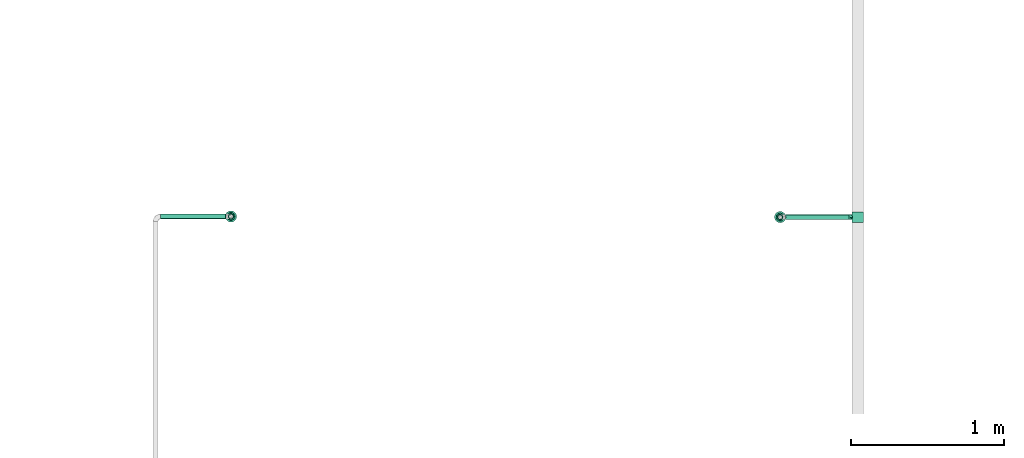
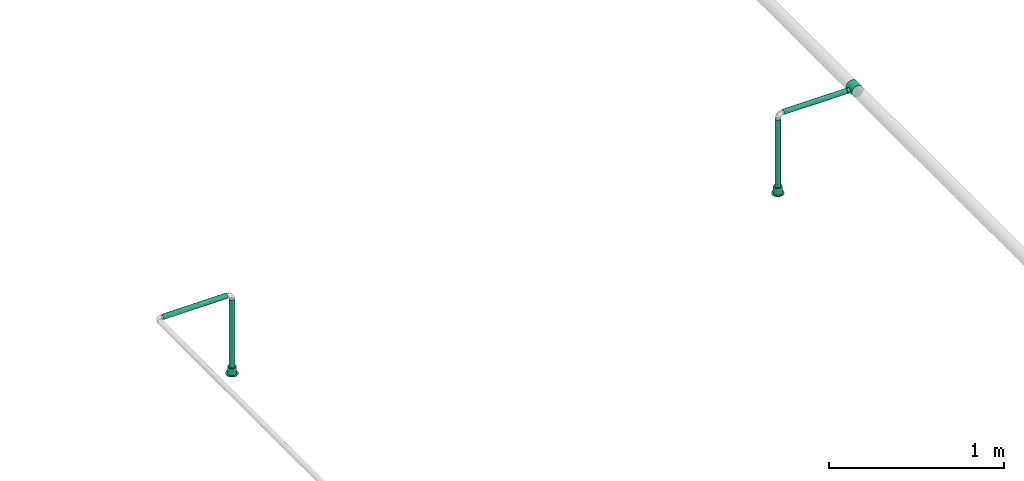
# One storey, part 28 of 95: 4 flow segments, 2 flow terminals, 1 flow fitting.
"""IFC2X3 building model written with IfcOpenShell, lengths in millimetres."""

from ifc_helpers import new_model, entity, si_unit, converted_unit, derived_unit, direction, frame, origin_with_axes, origin_2d_with_axis, place, context, subcontext, project, spatial, hollow_circle, extrude, open_shell, surface_model, source, transform, mapped, type_object, element, save


model = new_model("IFC2X3")

# Units and contexts
model_context = context("Model", 3, precision=0.01, world=frame((0.0, 4.29681676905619e-09, 0.0)), true_north=direction((4.01073788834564e-13, 1.0)))
plan_context = context("Plan", 3, precision=0.01, world=frame((0.0, 4.29681676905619e-09, 0.0)), true_north=direction((4.01073788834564e-13, 1.0)))
body_context = subcontext(model_context, "Body", "Model", "MODEL_VIEW")
ifc_project = project(units=[converted_unit("PLANEANGLEUNIT", "DEGREE", entity("IfcPositiveLengthMeasure", 0.0174532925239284), si_unit("PLANEANGLEUNIT", "RADIAN"), dimensions=[0, 0, 0, 0, 0, 0, 0]), si_unit("AREAUNIT", "SQUARE_METRE"), si_unit("LENGTHUNIT", "METRE", prefix="MILLI"), si_unit("MASSUNIT", "GRAM", prefix="KILO"), si_unit("POWERUNIT", "WATT"), si_unit("PRESSUREUNIT", "PASCAL"), si_unit("FORCEUNIT", "NEWTON", prefix="KILO"), si_unit("ELECTRICVOLTAGEUNIT", "VOLT"), si_unit("ELECTRICCURRENTUNIT", "AMPERE"), si_unit("THERMODYNAMICTEMPERATUREUNIT", "DEGREE_CELSIUS"), si_unit("TIMEUNIT", "SECOND"), si_unit("VOLUMEUNIT", "CUBIC_METRE"), derived_unit("LINEARVELOCITYUNIT", [(si_unit("LENGTHUNIT", "METRE"), 1), (si_unit("TIMEUNIT", "SECOND"), -1)]), derived_unit("VOLUMETRICFLOWRATEUNIT", [(si_unit("VOLUMEUNIT", "CUBIC_METRE"), 1), (si_unit("TIMEUNIT", "SECOND"), -1)]), derived_unit("THERMALTRANSMITTANCEUNIT", [(si_unit("POWERUNIT", "WATT"), 1), (si_unit("THERMODYNAMICTEMPERATUREUNIT", "KELVIN"), -1), (si_unit("AREAUNIT", "SQUARE_METRE"), -1)]), derived_unit("SOUNDPRESSUREUNIT", [(si_unit("PRESSUREUNIT", "PASCAL"), 1)])], contexts=[model_context, plan_context])

# Site, building, storey
site_placement = place(None, frame((0.0, -4.29681676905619e-09, 0.0), z_axis=(0.0, 0.0, 1.0), x_axis=(1.0, 0.0, 0.0)))
site = spatial("IfcSite", under=ifc_project, at=site_placement, CompositionType="ELEMENT")
building_placement = place(site_placement, frame((0.0, 4.29681676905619e-09, 0.0), z_axis=(0.0, 0.0, 1.0), x_axis=(1.0, 0.0, 0.0)))
building = spatial("IfcBuilding", under=site, at=building_placement, Name="mc-building", CompositionType="ELEMENT")
storey_placement = place(building_placement, frame((0.0, 0.0, 210900.0), z_axis=(0.0, 0.0, 1.0), x_axis=(1.0, 0.0, 0.0)))
storey = spatial("IfcBuildingStorey", under=building, at=storey_placement, Name="Nivå F", CompositionType="ELEMENT", Elevation=210900.0)

# Flow fitting
pipe_fitting_type = type_object("IfcPipeFittingType", Name="magi_pipe_fe_tee_centric_90_NOR", PredefinedType="JUNCTION")
shared_shape_1 = source(origin_with_axes(), body_context, "Body", "SurfaceModel", [
    surface_model("IfcShellBasedSurfaceModel", [(-33.8, 9.86101, -36.80177), (-33.8, 0.0, -38.1), (-33.8, 36.80177, -9.86101), (-33.8, 19.05, -32.99557), (-33.8, 32.99557, -19.05), (-33.8, 26.94077, -26.94077), (-33.8, -38.1, 0.0), (-33.8, -19.05, -32.99557), (-33.8, -26.94077, -26.94077), (-33.8, -9.86101, -36.80177), (-33.8, -32.99557, -19.05), (-33.8, -36.80177, -9.86101), (-33.8, 38.1, 0.0), (-33.8, 32.99557, 19.05), (-33.8, 36.80177, 9.86101), (-33.8, -36.80177, 9.86101), (-33.8, 19.05, 32.99557), (-33.8, 26.94077, 26.94077), (-33.8, 9.86101, 36.80177), (-33.8, 0.0, 38.1), (-33.8, -26.94077, 26.94077), (-33.8, -32.99557, 19.05), (-33.8, -9.86101, 36.80177), (-33.8, -19.05, 32.99557), (33.8, 0.0, -38.1), (33.8, 9.86101, -36.80177), (33.8, 19.05, -32.99557), (33.8, 26.94077, -26.94077), (33.8, 32.99557, -19.05), (33.8, 36.80177, -9.86101), (33.8, -38.1, 0.0), (33.8, -9.86101, -36.80177), (33.8, -26.94077, -26.94077), (33.8, -19.05, -32.99557), (33.8, -32.99557, -19.05), (33.8, -36.80177, -9.86101), (33.8, 36.80177, 9.86101), (33.8, 32.99557, 19.05), (33.8, 19.05, 32.99557), (33.8, 0.0, 38.1), (33.8, 26.94077, 26.94077), (33.8, 9.86101, 36.80177), (33.8, -26.94077, 26.94077), (33.8, -32.99557, 19.05), (33.8, -36.80177, 9.86101), (33.8, -19.05, 32.99557), (33.8, -9.86101, 36.80177), (33.8, 38.1, 0.0), (33.8, -37.45089, 4.9305), (15.86072, -37.65053, 5.83504), (16.9, -38.1, 0.0), (12.92726, -36.51183, 10.88559), (2.96752, -34.27545, 16.63742), (33.8, -34.89867, 14.4555), (8.48894, -35.18611, 14.61328), (-8.4904, -35.18646, 14.61243), (-33.8, -34.89867, 14.4555), (-15.8612, -37.65073, 5.83372), (-33.8, -37.45089, 4.9305), (-16.9, -38.1, 0.0), (-12.9317, -36.51341, 10.88031), (-2.97221, -34.27585, 16.63658), (-33.8, -37.45089, -4.9305), (-15.8612, -37.65073, -5.83372), (15.86072, -37.65053, -5.83504), (33.8, -37.45089, -4.9305), (-12.9317, -36.51341, -10.88031), (-33.8, -34.89867, -14.4555), (-8.4904, -35.18646, -14.61243), (2.96752, -34.27545, -16.63742), (8.48894, -35.18611, -14.61328), (33.8, -34.89867, -14.4555), (12.92726, -36.51183, -10.88559), (-2.97221, -34.27585, -16.63658), (4.37404, -57.15, -16.32415), (-16.9, -57.15, 0.0), (0.0, -57.15, -16.9), (14.63583, -57.15, -8.45), (8.45, -57.15, -14.63583), (16.32415, -57.15, -4.37404), (11.9501, -57.15, -11.9501), (-11.9501, -57.15, -11.9501), (-8.45, -57.15, -14.63583), (-4.37404, -57.15, -16.32415), (-14.63583, -57.15, -8.45), (-16.32415, -57.15, -4.37404), (16.9, -57.15, 0.0), (8.45, -57.15, 14.63583), (16.32415, -57.15, 4.37404), (14.63583, -57.15, 8.45), (-8.45, -57.15, 14.63583), (11.9501, -57.15, 11.9501), (4.37404, -57.15, 16.32415), (-16.32415, -57.15, 4.37404), (-11.9501, -57.15, 11.9501), (-14.63583, -57.15, 8.45), (0.0, -57.15, 16.9), (-4.37404, -57.15, 16.32415), (-16.3806, -37.87537, 2.91686), (-5.7313, -34.73116, 15.62451), (-0.00235, -34.27565, 16.637), (5.72823, -34.73078, 15.62535), (16.38036, -37.87526, 2.91752), (16.38036, -37.87526, -2.91752), (5.72823, -34.73078, -15.62535), (-0.00235, -34.27565, -16.637), (-5.7313, -34.73116, -15.62451), (-16.3806, -37.87537, -2.91686)], [open_shell([[[0, 1, 2]], [[3, 0, 2]], [[2, 4, 5]], [[3, 2, 5]], [[6, 2, 1]], [[7, 8, 9]], [[8, 1, 9]], [[10, 11, 8]], [[6, 8, 11]], [[8, 6, 1]], [[6, 12, 2]], [[13, 14, 12]], [[15, 13, 6]], [[16, 13, 15]], [[17, 13, 16]], [[18, 16, 19]], [[20, 19, 21]], [[16, 15, 21]], [[22, 19, 23]], [[20, 23, 19]], [[21, 19, 16]], [[12, 6, 13]], [[24, 25, 26]], [[24, 26, 27]], [[27, 28, 29]], [[24, 27, 30]], [[30, 27, 29]], [[31, 32, 33]], [[31, 24, 32]], [[34, 30, 35]], [[30, 34, 32]], [[24, 30, 32]], [[29, 36, 30]], [[36, 37, 30]], [[30, 37, 38]], [[38, 39, 30]], [[38, 37, 40]], [[39, 38, 41]], [[30, 42, 43]], [[44, 30, 43]], [[45, 39, 46]], [[45, 42, 30]], [[30, 39, 45]], [[36, 29, 47]], [[48, 44, 49]], [[50, 30, 48]], [[44, 51, 49]], [[43, 42, 52]], [[50, 48, 49]], [[44, 53, 51]], [[52, 54, 43]], [[42, 20, 52]], [[54, 53, 43]], [[55, 21, 56]], [[57, 58, 59]], [[6, 59, 58]], [[57, 60, 15]], [[55, 61, 21]], [[51, 53, 54]], [[15, 60, 56]], [[21, 61, 20]], [[56, 60, 55]], [[61, 52, 20]], [[57, 15, 58]], [[42, 23, 20]], [[19, 46, 39]], [[22, 45, 46]], [[18, 39, 41]], [[37, 36, 14]], [[17, 38, 40]], [[13, 40, 37]], [[41, 38, 16]], [[12, 36, 47]], [[23, 45, 22]], [[22, 46, 19]], [[18, 19, 39]], [[41, 16, 18]], [[16, 38, 17]], [[13, 17, 40]], [[14, 13, 37]], [[36, 12, 14]], [[45, 23, 42]], [[12, 47, 29]], [[29, 28, 2]], [[59, 62, 63]], [[27, 4, 28]], [[9, 24, 31]], [[0, 26, 25]], [[64, 35, 65]], [[24, 1, 25]], [[31, 33, 7]], [[27, 26, 5]], [[66, 67, 68]], [[4, 2, 28]], [[12, 29, 2]], [[27, 5, 4]], [[3, 26, 0]], [[26, 3, 5]], [[0, 25, 1]], [[9, 1, 24]], [[31, 7, 9]], [[33, 8, 7]], [[32, 34, 69]], [[70, 34, 71]], [[70, 69, 34]], [[35, 72, 71]], [[32, 69, 8]], [[30, 50, 65]], [[64, 72, 35]], [[64, 65, 50]], [[72, 70, 71]], [[73, 68, 10]], [[10, 8, 73]], [[68, 67, 10]], [[73, 8, 69]], [[66, 63, 11]], [[63, 62, 11]], [[62, 59, 6]], [[11, 67, 66]], [[32, 8, 33]], [[74, 75, 76]], [[77, 74, 78]], [[77, 79, 74]], [[77, 78, 80]], [[75, 74, 79]], [[76, 81, 82]], [[82, 83, 76]], [[84, 75, 85]], [[81, 76, 84]], [[75, 84, 76]], [[79, 86, 75]], [[87, 86, 88]], [[87, 88, 89]], [[90, 75, 87]], [[87, 89, 91]], [[90, 87, 92]], [[93, 94, 95]], [[94, 93, 90]], [[90, 96, 97]], [[93, 75, 90]], [[92, 96, 90]], [[87, 75, 86]], [[93, 98, 75]], [[60, 95, 94]], [[93, 95, 57]], [[94, 90, 55]], [[98, 59, 75]], [[57, 95, 60]], [[97, 61, 99]], [[55, 60, 94]], [[96, 52, 100]], [[87, 101, 92]], [[99, 90, 97]], [[99, 55, 90]], [[93, 57, 98]], [[92, 52, 96]], [[49, 89, 88]], [[102, 86, 50]], [[102, 49, 88]], [[91, 89, 51]], [[96, 61, 97]], [[101, 52, 92]], [[87, 54, 101]], [[87, 91, 54]], [[54, 91, 51]], [[51, 89, 49]], [[86, 102, 88]], [[100, 61, 96]], [[79, 103, 86]], [[72, 77, 80]], [[79, 77, 64]], [[80, 78, 70]], [[103, 50, 86]], [[64, 77, 72]], [[74, 69, 104]], [[70, 72, 80]], [[76, 73, 105]], [[82, 106, 83]], [[107, 75, 59]], [[104, 78, 74]], [[104, 70, 78]], [[68, 82, 81]], [[79, 64, 103]], [[63, 84, 85]], [[107, 63, 85]], [[84, 66, 81]], [[76, 69, 74]], [[83, 106, 73]], [[73, 76, 83]], [[68, 106, 82]], [[68, 81, 66]], [[66, 84, 63]], [[75, 107, 85]], [[105, 69, 76]]])]),
])
flow_fitting_placement = place(storey_placement, frame((534602.7875, 455598.02191, 4310.0), z_axis=(0.0, 0.0, -1.0), x_axis=(0.0, 1.0, 0.0)))
element("IfcFlowFitting", 1, at=flow_fitting_placement, inside=storey, type_object=pipe_fitting_type, Name="magi_pipe_fe_tee_centric_90_NOR", context=body_context, shape_type="MappedRepresentation", body=[
    mapped(shared_shape_1, transform((0.0, 0.0, 0.0), scale=1.0)),
])

# Flow segments
pipe_segment_type = type_object("IfcPipeSegmentType", Name="Stålrør normaltykke", PredefinedType="RIGIDSEGMENT")
shared_shape_2 = source(origin_with_axes(), body_context, "Body", "SweptSolid", [
    extrude(hollow_circle(Radius=16.9, WallThickness=2.0, at=origin_2d_with_axis()), frame((0.0, 0.0, 0.0), z_axis=(1.0, 0.0, 0.0), x_axis=(0.0, 1.0, 0.0)), (0.0, 0.0, 1.0), 427.2),
])
flow_segment_1_placement = place(storey_placement, frame((530464.44193, 455602.4924, 4310.0), z_axis=(0.0, 0.0, 1.0), x_axis=(-1.0, 0.0, 0.0)))
element("IfcFlowSegment", 2, at=flow_segment_1_placement, inside=storey, type_object=pipe_segment_type, Name="Stålrør normaltykke", context=body_context, shape_type="MappedRepresentation", body=[
    mapped(shared_shape_2, transform((0.0, 0.0, 0.0), scale=1.0)),
])
shared_shape_3 = source(origin_with_axes(), body_context, "Body", "SweptSolid", [
    extrude(hollow_circle(Radius=16.9, WallThickness=2.0, at=origin_2d_with_axis()), frame((0.0, 0.0, 0.0), z_axis=(1.0, 0.0, 0.0), x_axis=(0.0, 1.0, 0.0)), (0.0, 0.0, 1.0), 416.2),
])
flow_segment_2_placement = place(storey_placement, frame((534545.6375, 455598.02191, 4310.0), z_axis=(0.0, 0.0, 1.0), x_axis=(-1.0, 0.0, 0.0)))
element("IfcFlowSegment", 3, at=flow_segment_2_placement, inside=storey, type_object=pipe_segment_type, Name="Stålrør normaltykke", context=body_context, shape_type="MappedRepresentation", body=[
    mapped(shared_shape_3, transform((0.0, 0.0, 0.0), scale=1.0)),
])
shared_shape_4 = source(origin_with_axes(), body_context, "Body", "SweptSolid", [
    extrude(hollow_circle(Radius=16.9, WallThickness=2.0, at=origin_2d_with_axis()), frame((0.0, 0.0, 0.0), z_axis=(1.0, 0.0, 0.0), x_axis=(0.0, 1.0, 0.0)), (0.0, 0.0, 1.0), 506.9),
])
for number, where, z_axis, x_axis in (
    (4, (534095.66035, 455598.02191, 4276.20000000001), (0.0, -1.0, 0.0), (0.0, 0.0, -1.0)),
    (5, (530498.24193, 455602.4924, 4276.20000000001), (1.0, 0.0, 0.0), (0.0, 0.0, -1.0)),
):
    element("IfcFlowSegment", number, at=place(storey_placement, frame(where, z_axis=z_axis, x_axis=x_axis)), inside=storey, type_object=pipe_segment_type, Name="Stålrør normaltykke", context=body_context, shape_type="MappedRepresentation", body=[
        mapped(shared_shape_4, transform((0.0, 0.0, 0.0), scale=1.0)),
    ])

# Flow terminals
fire_suppression_terminal_type = type_object("IfcFireSuppressionTerminalType", Name="68DGR-STD-SKJULT I HIMLING", PredefinedType="NOTDEFINED")
shared_shape_5 = source(origin_with_axes(), body_context, "Body", "SurfaceModel", [
    surface_model("IfcShellBasedSurfaceModel", [(-26.0, 0.0, -46.0), (-25.11407, -6.72929, -46.0), (-25.11407, -6.72929, 0.0), (6.72929, -25.11407, 0.0), (6.72929, -25.11407, -46.0), (13.0, -22.51666, -46.0), (22.51666, -13.0, -46.0), (22.51666, -13.0, 0.0), (18.38478, -18.38478, 0.0), (25.11407, -6.72929, 0.0), (25.11407, -6.72929, -46.0), (26.0, 0.0, -46.0), (26.0, 0.0, 0.0), (25.11407, 6.72929, -46.0), (22.51666, 13.0, 0.0), (25.11407, 6.72929, 0.0), (13.0, 22.51666, -46.0), (6.72929, 25.11407, -46.0), (6.72929, 25.11407, 0.0), (18.38478, 18.38478, 0.0), (22.51666, 13.0, -46.0), (-25.11407, 6.72929, 0.0), (-25.11407, 6.72929, -46.0), (-26.16295, -26.16295, 5.0), (35.73926, -9.57631, 5.0), (37.0, 0.0, 5.0), (13.0, 22.51666, 0.0), (-26.0, 0.0, 0.0), (-13.0, 22.51666, 0.0), (-6.72929, 25.11407, 0.0), (0.0, 26.0, 0.0), (-22.51666, 13.0, 0.0), (-18.38478, 18.38478, 0.0), (13.0, -22.51666, 0.0), (0.0, -26.0, 0.0), (-22.51666, -13.0, 0.0), (-18.38478, -18.38478, 0.0), (-13.0, -22.51666, 0.0), (-6.72929, -25.11407, 0.0), (0.0, -26.0, -46.0), (18.38478, -18.38478, -46.0), (-18.38478, -18.38478, -46.0), (-13.0, -22.51666, -46.0), (-6.72929, -25.11407, -46.0), (-22.51666, -13.0, -46.0), (18.38478, 18.38478, -46.0), (-22.51666, 13.0, -46.0), (-18.38478, 18.38478, -46.0), (-13.0, 22.51666, -46.0), (-6.72929, 25.11407, -46.0), (0.0, 26.0, -46.0), (18.5, 32.04294, 5.0), (9.57631, 35.73926, 5.0), (35.73926, 9.57631, 5.0), (26.16295, 26.16295, 5.0), (32.04294, 18.5, 5.0), (-35.73926, -9.57631, 5.0), (-18.5, 32.04294, 5.0), (-9.57631, 35.73926, 5.0), (0.0, 37.0, 5.0), (-32.04294, 18.5, 5.0), (-35.73926, 9.57631, 5.0), (-26.16295, 26.16295, 5.0), (-37.0, 0.0, 5.0), (32.04294, -18.5, 5.0), (0.0, -37.0, 5.0), (26.16295, -26.16295, 5.0), (18.5, -32.04294, 5.0), (9.57631, -35.73926, 5.0), (-9.57631, -35.73926, 5.0), (-32.04294, -18.5, 5.0), (-18.5, -32.04294, 5.0), (18.5, -32.04294, 0.0), (9.57631, -35.73926, 0.0), (0.0, -37.0, 0.0), (32.04294, -18.5, 0.0), (-26.16295, -26.16295, 0.0), (26.16295, -26.16295, 0.0), (-35.73926, 9.57631, 0.0), (-18.5, -32.04294, 0.0), (-9.57631, -35.73926, 0.0), (-32.04294, -18.5, 0.0), (-35.73926, -9.57631, 0.0), (-37.0, 0.0, 0.0), (35.73926, -9.57631, 0.0), (35.73926, 9.57631, 0.0), (32.04294, 18.5, 0.0), (18.5, 32.04294, 0.0), (9.57631, 35.73926, 0.0), (26.16295, 26.16295, 0.0), (-32.04294, 18.5, 0.0), (-26.16295, 26.16295, 0.0), (-9.57631, 35.73926, 0.0), (0.0, 37.0, 0.0), (-18.5, 32.04294, 0.0), (37.0, 0.0, 0.0)], [open_shell([[[0, 1, 2]], [[3, 4, 5]], [[6, 7, 8]], [[9, 7, 10]], [[11, 12, 9]], [[13, 14, 15]], [[15, 12, 11]], [[16, 17, 18]], [[19, 14, 20]], [[21, 22, 0]], [[23, 24, 25]], [[19, 26, 18]], [[19, 18, 21]], [[27, 15, 19]], [[14, 19, 15]], [[19, 21, 27]], [[28, 21, 29]], [[18, 30, 29]], [[31, 21, 32]], [[28, 32, 21]], [[29, 21, 18]], [[12, 15, 27]], [[8, 7, 9]], [[33, 8, 9]], [[34, 3, 33]], [[9, 34, 33]], [[27, 34, 9]], [[2, 35, 27]], [[36, 27, 35]], [[37, 38, 36]], [[34, 27, 36]], [[36, 38, 34]], [[12, 27, 9]], [[5, 4, 39]], [[5, 39, 22]], [[10, 6, 40]], [[5, 10, 40]], [[39, 41, 22]], [[42, 41, 43]], [[41, 39, 43]], [[1, 0, 44]], [[44, 0, 22]], [[22, 41, 44]], [[10, 5, 22]], [[45, 13, 10]], [[20, 13, 45]], [[17, 16, 45]], [[10, 22, 45]], [[45, 22, 17]], [[46, 47, 22]], [[48, 22, 47]], [[48, 49, 22]], [[49, 17, 22]], [[49, 50, 17]], [[11, 10, 13]], [[46, 22, 21]], [[46, 31, 47]], [[49, 48, 28]], [[32, 48, 47]], [[50, 49, 29]], [[21, 0, 27]], [[21, 31, 46]], [[31, 32, 47]], [[48, 32, 28]], [[28, 29, 49]], [[29, 30, 50]], [[16, 26, 45]], [[13, 20, 14]], [[19, 20, 45]], [[11, 13, 15]], [[30, 18, 17]], [[18, 26, 16]], [[26, 19, 45]], [[50, 30, 17]], [[11, 9, 10]], [[10, 7, 6]], [[3, 39, 4]], [[6, 8, 40]], [[3, 5, 33]], [[8, 33, 5]], [[5, 40, 8]], [[3, 34, 39]], [[42, 43, 38]], [[42, 37, 41]], [[1, 44, 35]], [[36, 44, 41]], [[34, 38, 43]], [[38, 37, 42]], [[37, 36, 41]], [[36, 35, 44]], [[1, 35, 2]], [[2, 27, 0]], [[39, 34, 43]], [[51, 52, 53]], [[54, 51, 55]], [[56, 52, 57]], [[55, 51, 53]], [[52, 56, 53]], [[58, 57, 59]], [[57, 52, 59]], [[60, 61, 62]], [[57, 62, 63]], [[62, 61, 63]], [[53, 23, 25]], [[64, 24, 65]], [[66, 64, 67]], [[65, 68, 67]], [[64, 65, 67]], [[69, 65, 24]], [[70, 23, 56]], [[56, 57, 63]], [[71, 69, 23]], [[23, 53, 56]], [[24, 23, 69]], [[72, 73, 74]], [[75, 72, 74]], [[76, 75, 74]], [[77, 72, 75]], [[75, 76, 78]], [[79, 76, 80]], [[76, 74, 80]], [[81, 82, 76]], [[82, 78, 76]], [[83, 78, 82]], [[75, 78, 84]], [[85, 84, 78]], [[86, 85, 87]], [[85, 88, 87]], [[89, 86, 87]], [[88, 85, 78]], [[90, 91, 78]], [[91, 88, 78]], [[92, 93, 94]], [[88, 91, 94]], [[88, 94, 93]], [[95, 84, 85]], [[83, 61, 78]], [[78, 60, 90]], [[94, 91, 57]], [[62, 91, 90]], [[92, 94, 58]], [[61, 60, 78]], [[83, 63, 61]], [[94, 57, 58]], [[57, 91, 62]], [[90, 60, 62]], [[92, 58, 59]], [[59, 93, 92]], [[93, 52, 88]], [[88, 51, 87]], [[86, 89, 55]], [[54, 89, 87]], [[85, 86, 53]], [[51, 54, 87]], [[88, 52, 51]], [[85, 53, 25]], [[53, 86, 55]], [[89, 54, 55]], [[85, 25, 95]], [[59, 52, 93]], [[95, 24, 84]], [[84, 64, 75]], [[72, 77, 67]], [[66, 77, 75]], [[73, 72, 68]], [[24, 64, 84]], [[95, 25, 24]], [[72, 67, 68]], [[67, 77, 66]], [[75, 64, 66]], [[73, 68, 65]], [[65, 74, 73]], [[74, 69, 80]], [[80, 71, 79]], [[81, 76, 70]], [[23, 76, 79]], [[82, 81, 56]], [[71, 23, 79]], [[80, 69, 71]], [[82, 56, 63]], [[56, 81, 70]], [[76, 23, 70]], [[82, 63, 83]], [[65, 69, 74]]])]),
])
flow_terminal_1_placement = place(storey_placement, frame((530498.24193, 455602.4924, 3759.89999999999), z_axis=(0.0, 0.0, -1.0), x_axis=(1.0, 0.0, 0.0)))
element("IfcFlowTerminal", 6, at=flow_terminal_1_placement, inside=storey, type_object=fire_suppression_terminal_type, Name="68DGR-STD-SKJULT I HIMLING", context=body_context, shape_type="MappedRepresentation", body=[
    mapped(shared_shape_5, transform((0.0, 0.0, 0.0), scale=1.0)),
])
shared_shape_6 = source(origin_with_axes(), body_context, "Body", "SurfaceModel", [
    surface_model("IfcShellBasedSurfaceModel", [(6.72929, -25.11407, 0.0), (13.0, -22.51666, 0.0), (18.38478, -18.38478, 0.0), (-25.11407, -6.72929, 0.0), (25.11407, -6.72929, 0.0), (26.0, 0.0, 0.0), (22.51666, -13.0, 0.0), (-6.72929, -25.11407, 0.0), (-13.0, -22.51666, 0.0), (0.0, -26.0, 0.0), (-18.38478, -18.38478, 0.0), (-22.51666, -13.0, 0.0), (25.11407, 6.72929, 0.0), (22.51666, 13.0, 0.0), (18.38478, 18.38478, 0.0), (13.0, 22.51666, 0.0), (6.72929, 25.11407, 0.0), (0.0, 26.0, 0.0), (-18.38478, 18.38478, 0.0), (-26.0, 0.0, 0.0), (-22.51666, 13.0, 0.0), (-25.11407, 6.72929, 0.0), (-6.72929, 25.11407, 0.0), (-13.0, 22.51666, 0.0), (0.0, 26.0, -46.0), (6.72929, 25.11407, -46.0), (13.0, 22.51666, -46.0), (-25.11407, -6.72929, -46.0), (18.38478, 18.38478, -46.0), (22.51666, 13.0, -46.0), (25.11407, 6.72929, -46.0), (-18.38478, 18.38478, -46.0), (-6.72929, 25.11407, -46.0), (-13.0, 22.51666, -46.0), (-22.51666, 13.0, -46.0), (-26.0, 0.0, -46.0), (-25.11407, 6.72929, -46.0), (25.11407, -6.72929, -46.0), (18.38478, -18.38478, -46.0), (22.51666, -13.0, -46.0), (13.0, -22.51666, -46.0), (6.72929, -25.11407, -46.0), (-18.38478, -18.38478, -46.0), (-22.51666, -13.0, -46.0), (-13.0, -22.51666, -46.0), (-6.72929, -25.11407, -46.0), (0.0, -26.0, -46.0), (26.0, 0.0, -46.0), (35.73926, -9.57631, 5.0), (9.57631, -35.73926, 5.0), (18.5, -32.04294, 5.0), (32.04294, -18.5, 5.0), (26.16295, -26.16295, 5.0), (-18.5, -32.04294, 5.0), (-26.16295, -26.16295, 5.0), (37.0, 0.0, 5.0), (0.0, -37.0, 5.0), (-9.57631, -35.73926, 5.0), (-35.73926, -9.57631, 5.0), (-32.04294, -18.5, 5.0), (35.73926, 9.57631, 5.0), (0.0, 37.0, 5.0), (32.04294, 18.5, 5.0), (18.5, 32.04294, 5.0), (26.16295, 26.16295, 5.0), (9.57631, 35.73926, 5.0), (-9.57631, 35.73926, 5.0), (-35.73926, 9.57631, 5.0), (-26.16295, 26.16295, 5.0), (-32.04294, 18.5, 5.0), (-37.0, 0.0, 5.0), (-18.5, 32.04294, 5.0), (0.0, 37.0, 0.0), (9.57631, 35.73926, 0.0), (18.5, 32.04294, 0.0), (32.04294, 18.5, 0.0), (-26.16295, 26.16295, 0.0), (26.16295, 26.16295, 0.0), (35.73926, -9.57631, 0.0), (-9.57631, 35.73926, 0.0), (-18.5, 32.04294, 0.0), (-35.73926, 9.57631, 0.0), (-32.04294, 18.5, 0.0), (-26.16295, -26.16295, 0.0), (-37.0, 0.0, 0.0), (35.73926, 9.57631, 0.0), (37.0, 0.0, 0.0), (9.57631, -35.73926, 0.0), (18.5, -32.04294, 0.0), (32.04294, -18.5, 0.0), (26.16295, -26.16295, 0.0), (-18.5, -32.04294, 0.0), (-35.73926, -9.57631, 0.0), (-32.04294, -18.5, 0.0), (0.0, -37.0, 0.0), (-9.57631, -35.73926, 0.0)], [open_shell([[[0, 1, 2]], [[3, 0, 2]], [[4, 5, 2]], [[4, 2, 6]], [[3, 2, 5]], [[7, 3, 8]], [[7, 9, 0]], [[10, 3, 11]], [[3, 10, 8]], [[0, 3, 7]], [[5, 12, 3]], [[12, 13, 14]], [[12, 14, 15]], [[15, 16, 17]], [[17, 3, 15]], [[17, 18, 3]], [[19, 20, 21]], [[19, 3, 20]], [[18, 22, 23]], [[3, 18, 20]], [[17, 22, 18]], [[12, 15, 3]], [[24, 25, 26]], [[27, 24, 26]], [[28, 29, 30]], [[28, 30, 26]], [[27, 31, 24]], [[32, 31, 33]], [[32, 24, 31]], [[34, 35, 36]], [[35, 34, 31]], [[31, 27, 35]], [[27, 26, 30]], [[30, 37, 38]], [[38, 37, 39]], [[38, 40, 41]], [[38, 27, 30]], [[41, 27, 38]], [[27, 42, 43]], [[42, 27, 44]], [[27, 45, 44]], [[27, 41, 45]], [[41, 46, 45]], [[37, 30, 47]], [[3, 27, 43]], [[42, 11, 43]], [[8, 44, 45]], [[42, 44, 10]], [[7, 45, 46]], [[19, 35, 3]], [[35, 27, 3]], [[43, 11, 3]], [[42, 10, 11]], [[8, 10, 44]], [[45, 7, 8]], [[46, 9, 7]], [[0, 41, 40]], [[38, 1, 40]], [[6, 39, 37]], [[38, 39, 2]], [[4, 37, 47]], [[41, 0, 9]], [[40, 1, 0]], [[38, 2, 1]], [[39, 6, 2]], [[4, 6, 37]], [[47, 5, 4]], [[41, 9, 46]], [[30, 12, 47]], [[29, 13, 30]], [[25, 24, 16]], [[28, 14, 29]], [[30, 13, 12]], [[12, 5, 47]], [[15, 26, 16]], [[26, 15, 14]], [[26, 25, 16]], [[14, 13, 29]], [[14, 28, 26]], [[24, 17, 16]], [[22, 32, 33]], [[31, 23, 33]], [[20, 34, 36]], [[31, 34, 18]], [[21, 36, 35]], [[32, 22, 17]], [[33, 23, 22]], [[31, 18, 23]], [[34, 20, 18]], [[21, 20, 36]], [[35, 19, 21]], [[32, 17, 24]], [[48, 49, 50]], [[51, 50, 52]], [[49, 48, 53]], [[48, 50, 51]], [[54, 48, 55]], [[56, 53, 57]], [[56, 49, 53]], [[54, 58, 59]], [[54, 53, 48]], [[58, 54, 55]], [[55, 60, 58]], [[61, 60, 62]], [[63, 62, 64]], [[63, 65, 61]], [[63, 61, 62]], [[60, 61, 66]], [[67, 68, 69]], [[70, 58, 67]], [[68, 66, 71]], [[67, 60, 68]], [[60, 66, 68]], [[67, 58, 60]], [[72, 73, 74]], [[72, 74, 75]], [[72, 75, 76]], [[75, 74, 77]], [[78, 76, 75]], [[79, 76, 80]], [[79, 72, 76]], [[76, 81, 82]], [[76, 78, 81]], [[81, 83, 84]], [[85, 86, 75]], [[81, 78, 87]], [[88, 78, 89]], [[88, 87, 78]], [[88, 89, 90]], [[91, 81, 87]], [[92, 83, 93]], [[84, 83, 92]], [[91, 94, 95]], [[83, 81, 91]], [[94, 91, 87]], [[78, 75, 86]], [[92, 58, 84]], [[93, 59, 92]], [[53, 83, 91]], [[93, 83, 54]], [[57, 91, 95]], [[92, 59, 58]], [[58, 70, 84]], [[57, 53, 91]], [[54, 83, 53]], [[54, 59, 93]], [[56, 57, 95]], [[95, 94, 56]], [[87, 49, 94]], [[88, 50, 87]], [[51, 90, 89]], [[88, 90, 52]], [[48, 89, 78]], [[88, 52, 50]], [[50, 49, 87]], [[55, 48, 78]], [[51, 89, 48]], [[51, 52, 90]], [[86, 55, 78]], [[94, 49, 56]], [[85, 60, 86]], [[75, 62, 85]], [[63, 77, 74]], [[75, 77, 64]], [[65, 74, 73]], [[85, 62, 60]], [[60, 55, 86]], [[65, 63, 74]], [[64, 77, 63]], [[64, 62, 75]], [[61, 65, 73]], [[73, 72, 61]], [[79, 66, 72]], [[80, 71, 79]], [[69, 76, 82]], [[80, 76, 68]], [[67, 82, 81]], [[80, 68, 71]], [[71, 66, 79]], [[70, 67, 81]], [[69, 82, 67]], [[69, 68, 76]], [[84, 70, 81]], [[72, 66, 61]]])]),
])
flow_terminal_2_placement = place(storey_placement, frame((534095.66035, 455598.02191, 3759.89999999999), z_axis=(0.0, 0.0, -1.0), x_axis=(-1.0, 0.0, 0.0)))
element("IfcFlowTerminal", 7, at=flow_terminal_2_placement, inside=storey, type_object=fire_suppression_terminal_type, Name="68DGR-STD-SKJULT I HIMLING", context=body_context, shape_type="MappedRepresentation", body=[
    mapped(shared_shape_6, transform((0.0, 0.0, 0.0), scale=1.0)),
])

save(model, "model.ifc")
